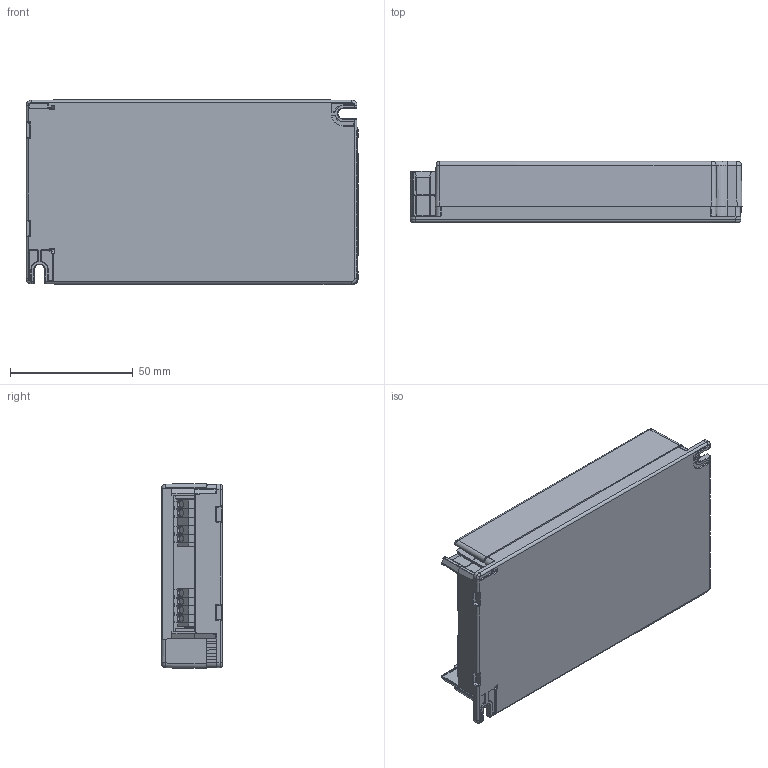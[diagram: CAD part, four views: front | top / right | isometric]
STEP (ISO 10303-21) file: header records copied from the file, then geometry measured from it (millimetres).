
FILE_DESCRIPTION (( 'STEP AP214' ), '1' );
FILE_NAME ('4273174swm000.step', '2020-12-10T09:51:53', ( 'Windows User' ), ( '' ), 'SwSTEP 2.0', 'SolidWorks 2020', '' );
FILE_SCHEMA (( 'AUTOMOTIVE_DESIGN' ));
Length unit declared in the file: millimetre
Products named in the file (1): 4273174swm000
Bounding box: 135.06 x 24.8 x 75.34 mm (x, y, z)
Volume: 232154.9 mm3; surface area: 37362.7 mm2
Topology: 1 solids, 5 shells, 1557 faces, 4091 edges, 2490 vertices
Faces by surface type: plane 847, cylinder 457, bspline 134, sphere 69, cone 30, torus 20
Entity records: 54819 total; most frequent: CARTESIAN_POINT 13452, ORIENTED_EDGE 8110, DIRECTION 6860, EDGE_CURVE 4055, VECTOR 2716, LINE 2716, VERTEX_POINT 2489, AXIS2_PLACEMENT_3D 2072
